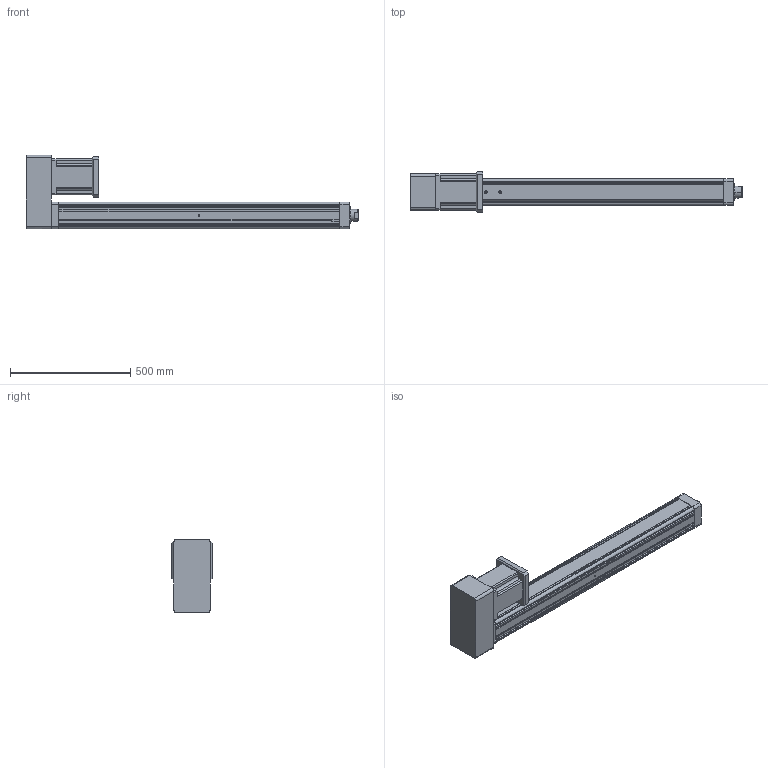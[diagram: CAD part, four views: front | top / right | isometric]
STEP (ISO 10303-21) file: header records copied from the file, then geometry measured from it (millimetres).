
FILE_DESCRIPTION (( 'STEP AP203' ), '1' );
FILE_NAME ('YRJ110-L1000-H1K2.STEP', '2020-01-04T05:50:27', ( 'User' ), ( 'China' ), 'SwSTEP 2.0', 'SolidWorks 2016', '' );
FILE_SCHEMA (( 'CONFIG_CONTROL_DESIGN' ));
Length unit declared in the file: millimetre
Products named in the file (7): H1-110-1; H1-110-2; 142熬厒儂; 萇儂碟-110; K2-110; YRJ110-L1000-H1K2; 095-100俴最倰第
Assembly tree (6 placements, depth 2):
  YRJ110-L1000-H1K2
    095-100俴最倰第
    H1-110-1
    H1-110-2
    萇儂碟-110
    142熬厒儂
    K2-110
Bounding box: 1381 x 168 x 305.5 mm (x, y, z)
Volume: 14557349.4 mm3; surface area: 1486138.4 mm2
Topology: 6 solids, 6 shells, 311 faces, 854 edges, 545 vertices
Faces by surface type: plane 162, cylinder 114, cone 35
Entity records: 10772 total; most frequent: CARTESIAN_POINT 2035, DIRECTION 1691, ORIENTED_EDGE 1660, EDGE_CURVE 830, LINE 565, VECTOR 565, AXIS2_PLACEMENT_3D 563, VERTEX_POINT 545
